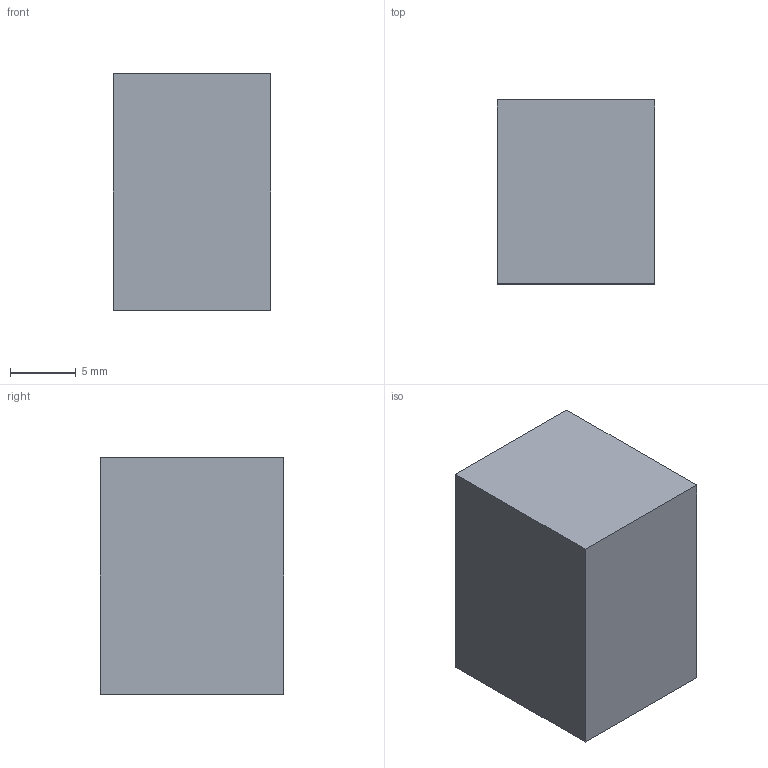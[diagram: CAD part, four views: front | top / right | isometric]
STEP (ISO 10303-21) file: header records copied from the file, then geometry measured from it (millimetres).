
FILE_DESCRIPTION(('Open CASCADE Model'),'2;1');
FILE_NAME('Open CASCADE Shape Model','2026-10-04T02:31:44',('Author'),( 'Open CASCADE'),'Open CASCADE STEP processor 8.0','Open CASCADE 8.0' ,'Unknown');
FILE_SCHEMA(('AUTOMOTIVE_DESIGN { 1 0 10303 214 1 1 1 1 }'));
Length unit declared in the file: millimetre
Products named in the file (1): Open CASCADE STEP translator 8.0 319
Bounding box: 12 x 14 x 18 mm (x, y, z)
Volume: 3024 mm3; surface area: 1272 mm2
Topology: 1 solids, 1 shells, 6 faces, 12 edges, 8 vertices
Faces by surface type: plane 6
Entity records: 322 total; most frequent: CARTESIAN_POINT 51, DIRECTION 50, LINE 36, VECTOR 36, ORIENTED_EDGE 24, PCURVE 24, DEFINITIONAL_REPRESENTATION 24, EDGE_CURVE 12
